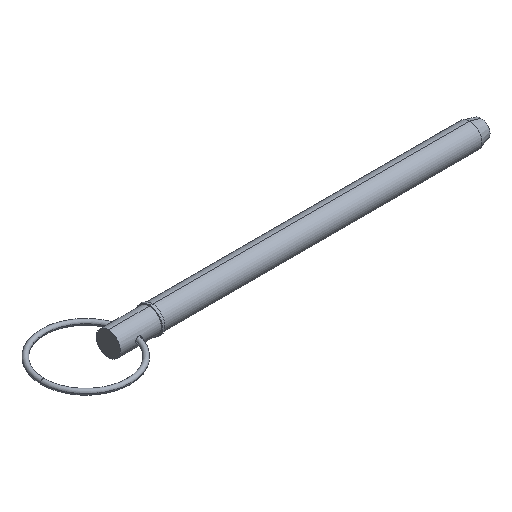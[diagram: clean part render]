
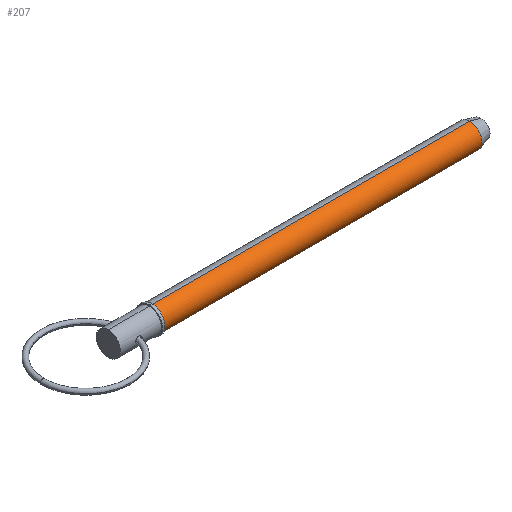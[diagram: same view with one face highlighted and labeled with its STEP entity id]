
A CAD part, isometric view. The second image highlights one B-rep face of the part: STEP entity #207.
In plain terms, the highlighted cylindrical face has radius 7.145 mm (diameter 14.29 mm), a partial arc.
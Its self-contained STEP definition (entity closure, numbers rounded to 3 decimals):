
#19 = CIRCLE ( 'NONE', #555, 7.145 ) ;
#69 = CIRCLE ( 'NONE', #750, 7.145 ) ;
#81 = CARTESIAN_POINT ( 'NONE',  ( 25.7, 0., 0. ) ) ;
#106 = VECTOR ( 'NONE', #570, 1000. ) ;
#124 = CARTESIAN_POINT ( 'NONE',  ( 214.284, 0., 0. ) ) ;
#131 = EDGE_CURVE ( 'NONE', #620, #653, #19, .T. ) ;
#155 = CYLINDRICAL_SURFACE ( 'NONE', #796, 7.145 ) ;
#177 = EDGE_CURVE ( 'NONE', #653, #435, #481, .T. ) ;
#207 = ADVANCED_FACE ( 'NONE', ( #667 ), #155, .T. ) ;
#220 = DIRECTION ( 'NONE',  ( 0., 0., -1. ) ) ;
#241 = DIRECTION ( 'NONE',  ( 1., 0., 0. ) ) ;
#253 = CARTESIAN_POINT ( 'NONE',  ( 0., 0., 0. ) ) ;
#424 = DIRECTION ( 'NONE',  ( 0., 0., -1. ) ) ;
#429 = CARTESIAN_POINT ( 'NONE',  ( 0., 0., 7.145 ) ) ;
#435 = VERTEX_POINT ( 'NONE', #602 ) ;
#449 = ORIENTED_EDGE ( 'NONE', *, *, #131, .T. ) ;
#464 = CARTESIAN_POINT ( 'NONE',  ( 25.7, 0., 7.145 ) ) ;
#481 = LINE ( 'NONE', #822, #106 ) ;
#495 = CARTESIAN_POINT ( 'NONE',  ( 25.7, 0., -7.145 ) ) ;
#515 = LINE ( 'NONE', #429, #938 ) ;
#516 = ORIENTED_EDGE ( 'NONE', *, *, #177, .T. ) ;
#555 = AXIS2_PLACEMENT_3D ( 'NONE', #81, #241, #424 ) ;
#570 = DIRECTION ( 'NONE',  ( 1., 0., 0. ) ) ;
#588 = ORIENTED_EDGE ( 'NONE', *, *, #861, .F. ) ;
#602 = CARTESIAN_POINT ( 'NONE',  ( 214.284, 0., -7.145 ) ) ;
#620 = VERTEX_POINT ( 'NONE', #464 ) ;
#653 = VERTEX_POINT ( 'NONE', #495 ) ;
#661 = DIRECTION ( 'NONE',  ( 1., 0., 0. ) ) ;
#667 = FACE_OUTER_BOUND ( 'NONE', #930, .T. ) ;
#690 = CARTESIAN_POINT ( 'NONE',  ( 214.284, 0., 7.145 ) ) ;
#692 = DIRECTION ( 'NONE',  ( 1., 0., 0. ) ) ;
#750 = AXIS2_PLACEMENT_3D ( 'NONE', #124, #1020, #220 ) ;
#796 = AXIS2_PLACEMENT_3D ( 'NONE', #253, #661, #970 ) ;
#822 = CARTESIAN_POINT ( 'NONE',  ( 0., 0., -7.145 ) ) ;
#861 = EDGE_CURVE ( 'NONE', #620, #939, #515, .T. ) ;
#930 = EDGE_LOOP ( 'NONE', ( #588, #449, #516, #949 ) ) ;
#938 = VECTOR ( 'NONE', #692, 1000. ) ;
#939 = VERTEX_POINT ( 'NONE', #690 ) ;
#949 = ORIENTED_EDGE ( 'NONE', *, *, #1028, .F. ) ;
#970 = DIRECTION ( 'NONE',  ( 0., 0., -1. ) ) ;
#1020 = DIRECTION ( 'NONE',  ( 1., 0., 0. ) ) ;
#1028 = EDGE_CURVE ( 'NONE', #939, #435, #69, .T. ) ;
